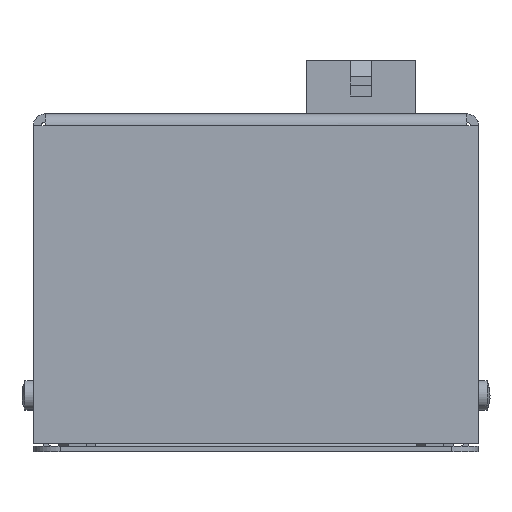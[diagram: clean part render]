
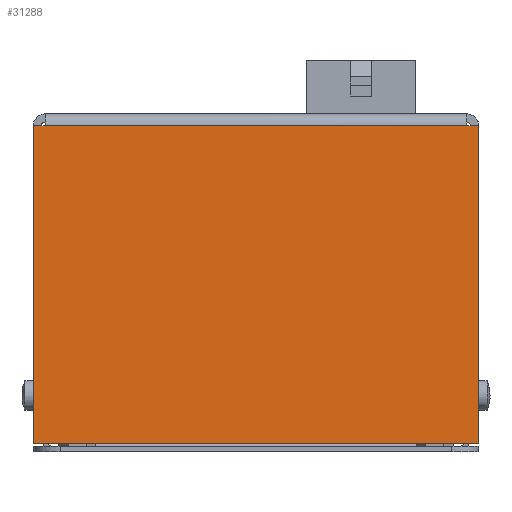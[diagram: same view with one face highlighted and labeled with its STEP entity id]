
A CAD part, front view. The second image highlights one B-rep face of the part: STEP entity #31288.
In plain terms, the highlighted planar face has unit normal (0, -1, 0).
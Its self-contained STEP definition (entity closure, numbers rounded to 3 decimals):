
#224 = DIRECTION ( 'NONE',  ( 1., 0., 0. ) ) ;
#818 = CARTESIAN_POINT ( 'NONE',  ( -59.319, -189., -2.2 ) ) ;
#1180 = LINE ( 'NONE', #43835, #51305 ) ;
#3656 = CARTESIAN_POINT ( 'NONE',  ( -59.319, -189., -2.2 ) ) ;
#4007 = LINE ( 'NONE', #3656, #55958 ) ;
#4573 = ORIENTED_EDGE ( 'NONE', *, *, #22765, .T. ) ;
#4950 = EDGE_CURVE ( 'NONE', #43060, #55979, #5827, .T. ) ;
#5547 = DIRECTION ( 'NONE',  ( 0., 0., -1. ) ) ;
#5827 = LINE ( 'NONE', #19543, #23761 ) ;
#6045 = EDGE_LOOP ( 'NONE', ( #29121, #26717, #10682, #49872, #35510, #4573 ) ) ;
#9705 = EDGE_CURVE ( 'NONE', #55979, #55736, #4007, .T. ) ;
#9953 = CARTESIAN_POINT ( 'NONE',  ( 0., -189., -61.5 ) ) ;
#10682 = ORIENTED_EDGE ( 'NONE', *, *, #9705, .F. ) ;
#15354 = CARTESIAN_POINT ( 'NONE',  ( 0., -189., -1.5 ) ) ;
#15663 = EDGE_CURVE ( 'NONE', #19886, #46488, #32477, .T. ) ;
#16971 = CARTESIAN_POINT ( 'NONE',  ( 0., -189., -61.5 ) ) ;
#17512 = EDGE_CURVE ( 'NONE', #55736, #46488, #44411, .T. ) ;
#17537 = DIRECTION ( 'NONE',  ( 1., 0., 0. ) ) ;
#17828 = AXIS2_PLACEMENT_3D ( 'NONE', #15354, #38105, #24320 ) ;
#19543 = CARTESIAN_POINT ( 'NONE',  ( 83., -189., -2.2 ) ) ;
#19705 = EDGE_CURVE ( 'NONE', #47426, #43060, #38087, .T. ) ;
#19886 = VERTEX_POINT ( 'NONE', #9953 ) ;
#20349 = VECTOR ( 'NONE', #58095, 1000. ) ;
#21933 = CARTESIAN_POINT ( 'NONE',  ( 80.793, -189., -2.2 ) ) ;
#22765 = EDGE_CURVE ( 'NONE', #47426, #19886, #1180, .T. ) ;
#23761 = VECTOR ( 'NONE', #224, 1000. ) ;
#24320 = DIRECTION ( 'NONE',  ( 0., 0., 1. ) ) ;
#24370 = CARTESIAN_POINT ( 'NONE',  ( 2.207, -189., -2.2 ) ) ;
#26717 = ORIENTED_EDGE ( 'NONE', *, *, #17512, .F. ) ;
#29121 = ORIENTED_EDGE ( 'NONE', *, *, #15663, .T. ) ;
#29214 = CARTESIAN_POINT ( 'NONE',  ( 83., -189., -61.5 ) ) ;
#30240 = VECTOR ( 'NONE', #33392, 1000. ) ;
#31288 = ADVANCED_FACE ( 'NONE', ( #51166 ), #33688, .F. ) ;
#32477 = LINE ( 'NONE', #16971, #20349 ) ;
#32748 = CARTESIAN_POINT ( 'NONE',  ( 0., -189., -2.2 ) ) ;
#33392 = DIRECTION ( 'NONE',  ( 1., 0., 0. ) ) ;
#33688 = PLANE ( 'NONE',  #17828 ) ;
#35510 = ORIENTED_EDGE ( 'NONE', *, *, #19705, .F. ) ;
#38087 = LINE ( 'NONE', #818, #30240 ) ;
#38105 = DIRECTION ( 'NONE',  ( 0., 1., 0. ) ) ;
#41956 = CARTESIAN_POINT ( 'NONE',  ( 83., -189., -61.5 ) ) ;
#43060 = VERTEX_POINT ( 'NONE', #24370 ) ;
#43245 = DIRECTION ( 'NONE',  ( 0., 0., -1. ) ) ;
#43835 = CARTESIAN_POINT ( 'NONE',  ( 0., -189., -61.5 ) ) ;
#44411 = LINE ( 'NONE', #41956, #47277 ) ;
#46488 = VERTEX_POINT ( 'NONE', #29214 ) ;
#47277 = VECTOR ( 'NONE', #5547, 1000. ) ;
#47426 = VERTEX_POINT ( 'NONE', #32748 ) ;
#49872 = ORIENTED_EDGE ( 'NONE', *, *, #4950, .F. ) ;
#51166 = FACE_OUTER_BOUND ( 'NONE', #6045, .T. ) ;
#51305 = VECTOR ( 'NONE', #43245, 1000. ) ;
#55736 = VERTEX_POINT ( 'NONE', #56518 ) ;
#55958 = VECTOR ( 'NONE', #17537, 1000. ) ;
#55979 = VERTEX_POINT ( 'NONE', #21933 ) ;
#56518 = CARTESIAN_POINT ( 'NONE',  ( 83., -189., -2.2 ) ) ;
#58095 = DIRECTION ( 'NONE',  ( 1., 0., 0. ) ) ;
